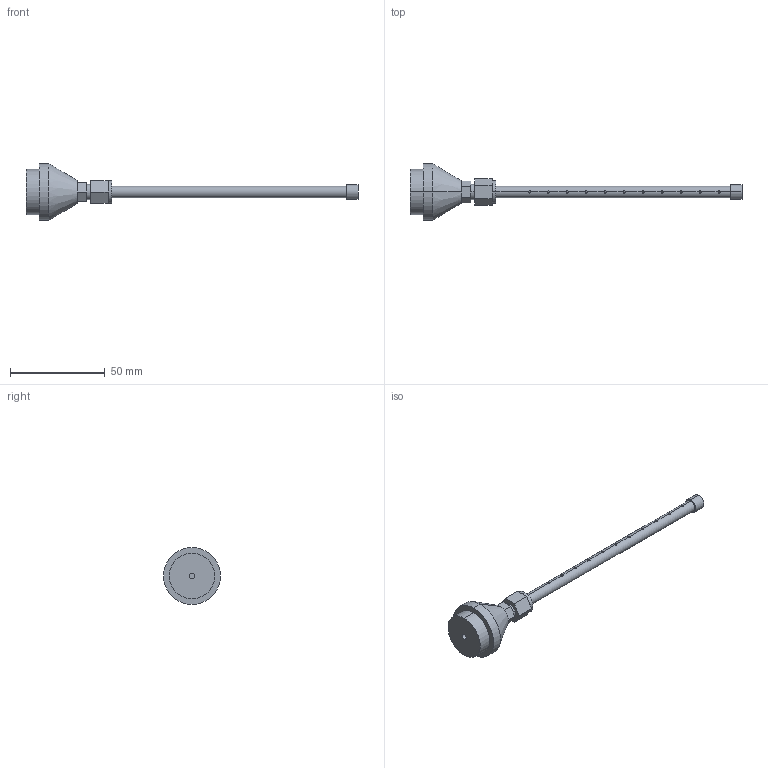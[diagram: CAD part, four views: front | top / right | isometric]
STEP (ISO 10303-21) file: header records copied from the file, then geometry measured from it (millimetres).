
FILE_DESCRIPTION (( 'STEP AP203' ), '1' );
FILE_NAME ('ER-AB10.STEP', '2005-09-05T00:32:26', ( '' ), ( '' ), 'SwSTEP 2.0', 'SolidWorks 2004073', '' );
FILE_SCHEMA (( 'CONFIG_CONTROL_DESIGN' ));
Length unit declared in the file: millimetre
Products named in the file (1): ER-AB10
Bounding box: 175 x 30 x 30 mm (x, y, z)
Volume: 16690.3 mm3; surface area: 7947.6 mm2
Topology: 1 solids, 1 shells, 65 faces, 180 edges, 102 vertices
Faces by surface type: cylinder 36, plane 27, cone 2
Entity records: 2535 total; most frequent: CARTESIAN_POINT 854, ORIENTED_EDGE 360, DIRECTION 302, EDGE_CURVE 180, VERTEX_POINT 102, VECTOR 102, LINE 102, AXIS2_PLACEMENT_3D 100
